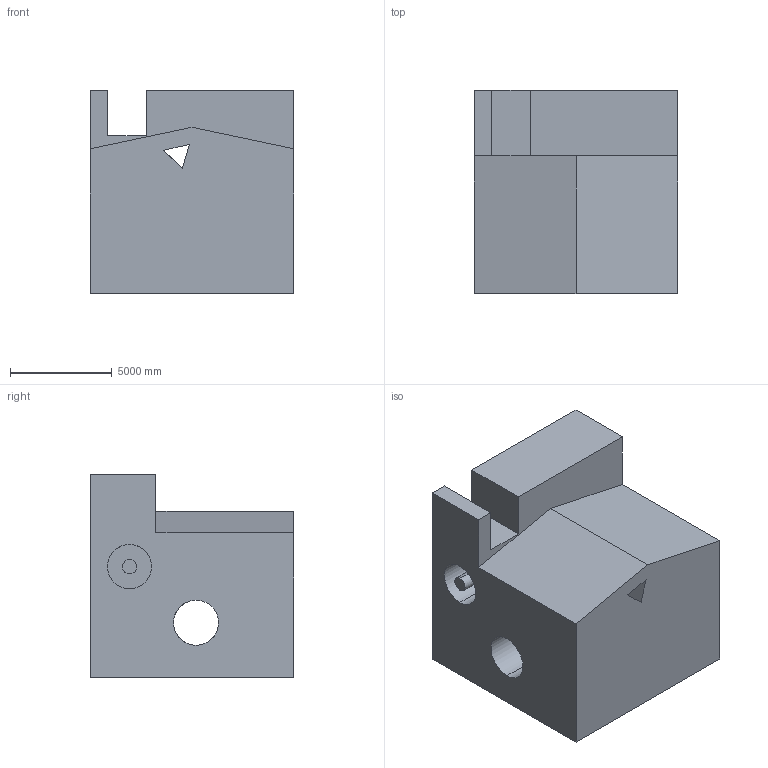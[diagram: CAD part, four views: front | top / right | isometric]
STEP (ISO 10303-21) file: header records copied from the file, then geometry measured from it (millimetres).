
FILE_DESCRIPTION (( 'STEP AP203' ), '1' );
FILE_NAME ('1785.STEP', '2022-08-19T12:51:58', ( 'user' ), ( '' ), 'SwSTEP 2.0', 'SolidWorks 2021', '' );
FILE_SCHEMA (( 'CONFIG_CONTROL_DESIGN' ));
Length unit declared in the file: centimetre
Products named in the file (1): 1785
Bounding box: 10000 x 10000 x 10000 mm (x, y, z)
Volume: 695218362404.8 mm3; surface area: 861409489.9 mm2
Topology: 1 solids, 1 shells, 41 faces, 117 edges, 78 vertices
Faces by surface type: plane 23, cylinder 18
Entity records: 2555 total; most frequent: CARTESIAN_POINT 1388, ORIENTED_EDGE 234, DIRECTION 215, EDGE_CURVE 117, VERTEX_POINT 78, AXIS2_PLACEMENT_3D 74, LINE 67, VECTOR 67
